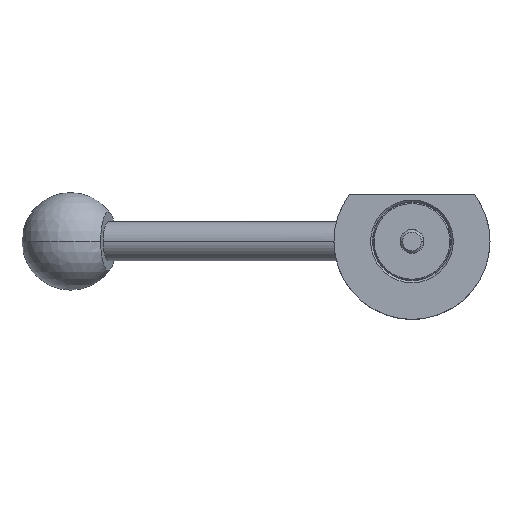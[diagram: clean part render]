
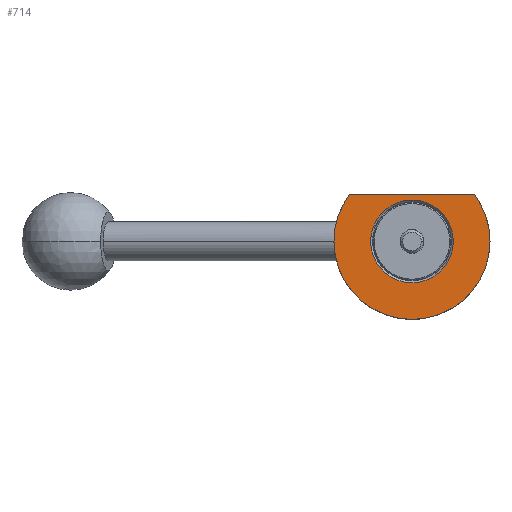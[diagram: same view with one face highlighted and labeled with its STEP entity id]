
A CAD part, front view. The second image highlights one B-rep face of the part: STEP entity #714.
In plain terms, the highlighted planar face has unit normal (0, -1, 0).
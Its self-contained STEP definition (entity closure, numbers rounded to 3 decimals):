
#17 = EDGE_CURVE ( 'NONE', #931, #862, #982, .T. ) ;
#47 = ORIENTED_EDGE ( 'NONE', *, *, #1722, .T. ) ;
#58 = EDGE_CURVE ( 'NONE', #1136, #503, #1117, .T. ) ;
#228 = CARTESIAN_POINT ( 'NONE',  ( -10.6, -10., 0. ) ) ;
#263 = DIRECTION ( 'NONE',  ( 0., 1., 0. ) ) ;
#273 = CARTESIAN_POINT ( 'NONE',  ( -16.001, -10., 11.999 ) ) ;
#277 = DIRECTION ( 'NONE',  ( 0., -1., 0. ) ) ;
#302 = EDGE_CURVE ( 'NONE', #383, #926, #727, .T. ) ;
#359 = ORIENTED_EDGE ( 'NONE', *, *, #649, .T. ) ;
#370 = ORIENTED_EDGE ( 'NONE', *, *, #58, .F. ) ;
#383 = VERTEX_POINT ( 'NONE', #1975 ) ;
#390 = AXIS2_PLACEMENT_3D ( 'NONE', #438, #277, #908 ) ;
#438 = CARTESIAN_POINT ( 'NONE',  ( -10.6, -10., 0. ) ) ;
#503 = VERTEX_POINT ( 'NONE', #273 ) ;
#547 = VECTOR ( 'NONE', #1896, 1000. ) ;
#558 = ORIENTED_EDGE ( 'NONE', *, *, #17, .T. ) ;
#562 = CARTESIAN_POINT ( 'NONE',  ( -20., -10., 0. ) ) ;
#590 = PLANE ( 'NONE',  #390 ) ;
#627 = ORIENTED_EDGE ( 'NONE', *, *, #302, .F. ) ;
#649 = EDGE_CURVE ( 'NONE', #383, #503, #774, .T. ) ;
#714 = ADVANCED_FACE ( 'NONE', ( #1218, #1851 ), #590, .T. ) ;
#727 = CIRCLE ( 'NONE', #786, 20. ) ;
#774 = LINE ( 'NONE', #796, #547 ) ;
#786 = AXIS2_PLACEMENT_3D ( 'NONE', #1287, #1111, #1740 ) ;
#796 = CARTESIAN_POINT ( 'NONE',  ( -10.6, -10., 11.999 ) ) ;
#858 = CARTESIAN_POINT ( 'NONE',  ( 20., -10., 0. ) ) ;
#862 = VERTEX_POINT ( 'NONE', #985 ) ;
#881 = AXIS2_PLACEMENT_3D ( 'NONE', #1094, #1043, #934 ) ;
#908 = DIRECTION ( 'NONE',  ( 1., 0., 0. ) ) ;
#926 = VERTEX_POINT ( 'NONE', #858 ) ;
#931 = VERTEX_POINT ( 'NONE', #228 ) ;
#934 = DIRECTION ( 'NONE',  ( -1., 0., 0. ) ) ;
#982 = CIRCLE ( 'NONE', #1350, 10.6 ) ;
#985 = CARTESIAN_POINT ( 'NONE',  ( 10.6, -10., 0. ) ) ;
#1043 = DIRECTION ( 'NONE',  ( 0., 1., 0. ) ) ;
#1094 = CARTESIAN_POINT ( 'NONE',  ( 0., -10., 0. ) ) ;
#1111 = DIRECTION ( 'NONE',  ( 0., 1., 0. ) ) ;
#1117 = CIRCLE ( 'NONE', #1513, 20. ) ;
#1136 = VERTEX_POINT ( 'NONE', #562 ) ;
#1194 = CARTESIAN_POINT ( 'NONE',  ( 0., -10., 0. ) ) ;
#1207 = DIRECTION ( 'NONE',  ( 0., 1., 0. ) ) ;
#1218 = FACE_BOUND ( 'NONE', #1805, .T. ) ;
#1287 = CARTESIAN_POINT ( 'NONE',  ( 0., -10., 0. ) ) ;
#1350 = AXIS2_PLACEMENT_3D ( 'NONE', #1372, #1394, #2011 ) ;
#1372 = CARTESIAN_POINT ( 'NONE',  ( 0., -10., 0. ) ) ;
#1394 = DIRECTION ( 'NONE',  ( 0., 1., 0. ) ) ;
#1513 = AXIS2_PLACEMENT_3D ( 'NONE', #1566, #1207, #1684 ) ;
#1566 = CARTESIAN_POINT ( 'NONE',  ( 0., -10., 0. ) ) ;
#1647 = CIRCLE ( 'NONE', #881, 20. ) ;
#1684 = DIRECTION ( 'NONE',  ( -1., 0., 0. ) ) ;
#1722 = EDGE_CURVE ( 'NONE', #862, #931, #1778, .T. ) ;
#1740 = DIRECTION ( 'NONE',  ( -1., 0., 0. ) ) ;
#1750 = EDGE_CURVE ( 'NONE', #926, #1136, #1647, .T. ) ;
#1778 = CIRCLE ( 'NONE', #1845, 10.6 ) ;
#1794 = EDGE_LOOP ( 'NONE', ( #627, #359, #370, #1910 ) ) ;
#1805 = EDGE_LOOP ( 'NONE', ( #47, #558 ) ) ;
#1845 = AXIS2_PLACEMENT_3D ( 'NONE', #1194, #263, #1856 ) ;
#1851 = FACE_OUTER_BOUND ( 'NONE', #1794, .T. ) ;
#1856 = DIRECTION ( 'NONE',  ( -1., 0., 0. ) ) ;
#1896 = DIRECTION ( 'NONE',  ( -1., 0., 0. ) ) ;
#1910 = ORIENTED_EDGE ( 'NONE', *, *, #1750, .F. ) ;
#1975 = CARTESIAN_POINT ( 'NONE',  ( 16.001, -10., 11.999 ) ) ;
#2011 = DIRECTION ( 'NONE',  ( -1., 0., 0. ) ) ;
